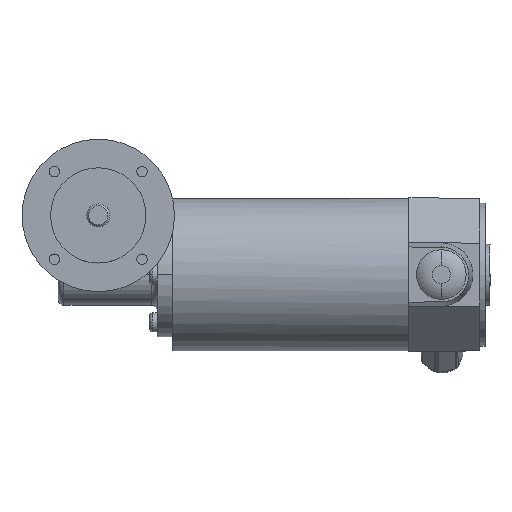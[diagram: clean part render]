
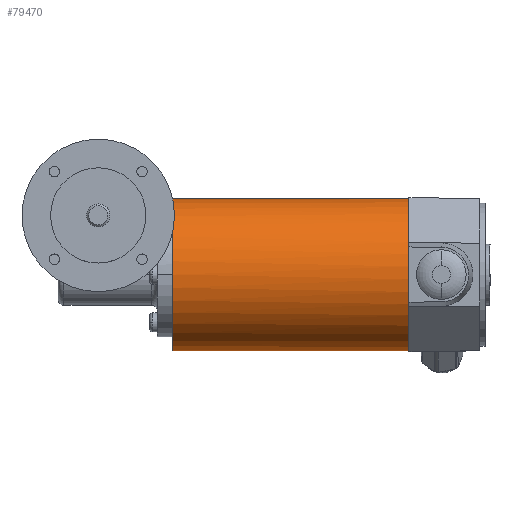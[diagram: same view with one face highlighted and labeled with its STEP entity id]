
A CAD part, top view. The second image highlights one B-rep face of the part: STEP entity #79470.
In plain terms, the highlighted cylindrical face has radius 40 mm (diameter 80 mm), a partial arc.
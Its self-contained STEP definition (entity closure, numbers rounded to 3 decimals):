
#5680=CARTESIAN_POINT('',(-51.849,455.,
19.808));
#5690=DIRECTION('',(-0.026,0.,
1.));
#5700=DIRECTION('',(1.,0.,
0.026));
#5710=AXIS2_PLACEMENT_3D('',#5680,#5690,#5700);
#5720=CIRCLE('',#5710,40.);
#5730=CARTESIAN_POINT('',(-11.863,455.,
20.855));
#5740=VERTEX_POINT('',#5730);
#5750=CARTESIAN_POINT('',(-91.835,455.,
18.761));
#5760=VERTEX_POINT('',#5750);
#5770=EDGE_CURVE('',#5740,#5760,#5720,.T.);
#38350=CARTESIAN_POINT('',(-48.603,455.,
-104.15));
#38360=DIRECTION('',(-0.026,0.,
1.));
#38370=DIRECTION('',(1.,0.,
0.026));
#38380=AXIS2_PLACEMENT_3D('',#38350,#38360,#38370);
#38390=CIRCLE('',#38380,40.);
#38400=CARTESIAN_POINT('',(-59.452,493.5,
-104.434));
#38410=VERTEX_POINT('',#38400);
#38420=CARTESIAN_POINT('',(-88.589,455.,
-105.197));
#38430=VERTEX_POINT('',#38420);
#38440=EDGE_CURVE('',#38410,#38430,#38390,.T.);
#38460=CARTESIAN_POINT('',(-8.617,455.,
-103.102));
#38470=VERTEX_POINT('',#38460);
#38500=EDGE_CURVE('',#38470,#38410,#38390,.T.);
#40160=CARTESIAN_POINT('',(-48.603,455.,
-104.15));
#40170=DIRECTION('',(-0.026,0.,
1.));
#40180=DIRECTION('',(1.,0.,
0.026));
#40190=AXIS2_PLACEMENT_3D('',#40160,#40170,#40180);
#40200=CYLINDRICAL_SURFACE('',#40190,40.);
#40210=CARTESIAN_POINT('',(-8.617,455.,
-103.102));
#40220=DIRECTION('',(-0.026,0.,
1.));
#40230=VECTOR('',#40220,1.);
#40240=LINE('',#40210,#40230);
#40250=EDGE_CURVE('',#38470,#5740,#40240,.T.);
#40280=CARTESIAN_POINT('',(-88.589,455.,
-105.197));
#40290=DIRECTION('',(-0.026,0.,
1.));
#40300=VECTOR('',#40290,1.);
#40310=LINE('',#40280,#40300);
#40320=EDGE_CURVE('',#38430,#5760,#40310,.T.);
#79400=ORIENTED_EDGE('',*,*,#40250,.F.);
#79410=ORIENTED_EDGE('',*,*,#5770,.F.);
#79420=ORIENTED_EDGE('',*,*,#40320,.T.);
#79430=ORIENTED_EDGE('',*,*,#38440,.T.);
#79440=ORIENTED_EDGE('',*,*,#38500,.T.);
#79450=EDGE_LOOP('',(#79440,#79430,#79420,#79410,#79400));
#79460=FACE_OUTER_BOUND('',#79450,.T.);
#79470=ADVANCED_FACE('',(#79460),#40200,.T.);
